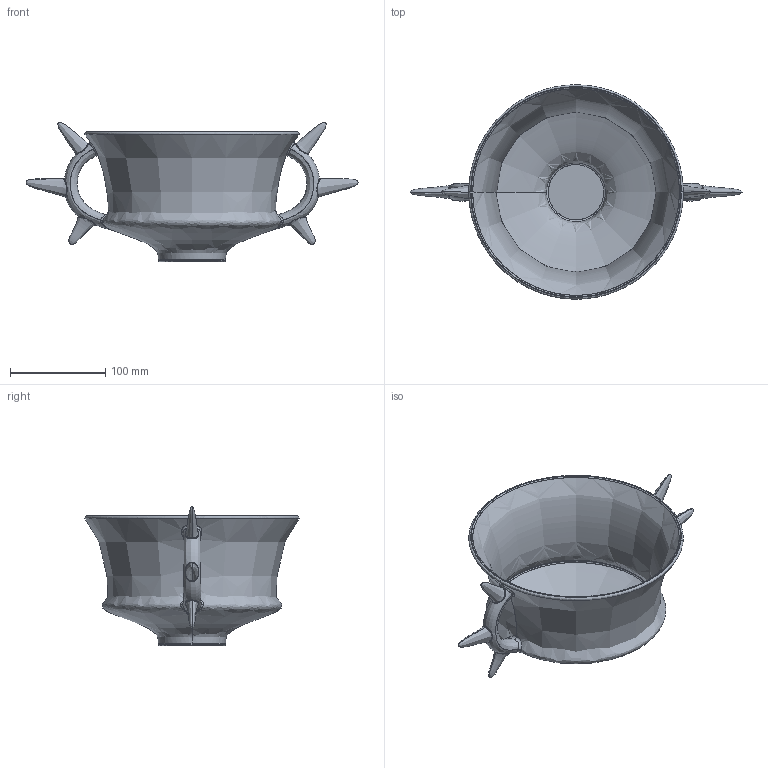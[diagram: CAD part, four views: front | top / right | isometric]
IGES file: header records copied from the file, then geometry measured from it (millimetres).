
Global section: file name: C:\Users\colombo_c\Desktop\Danese\Sito\3D mancanti\Batos\Batos.igs; native system: Rhinoceros ( Apr 16 2024 ); preprocessor: Trout Lake IGES 012 Apr 16 2024; date: 250710.092632; units: millimetre
Bounding box: 348.33 x 224.84 x 146.13 mm (x, y, z)
Surface area: 198870.5 mm2 (no closed solid volume)
Topology: 0 solids, 0 shells, 65 faces, 1053 edges, 1027 vertices
Faces by surface type: bspline 65
